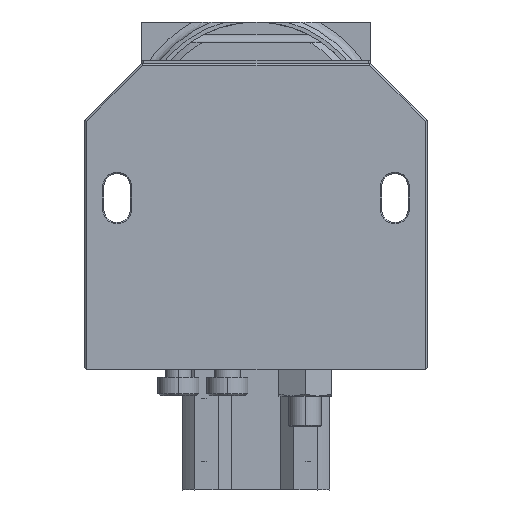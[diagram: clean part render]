
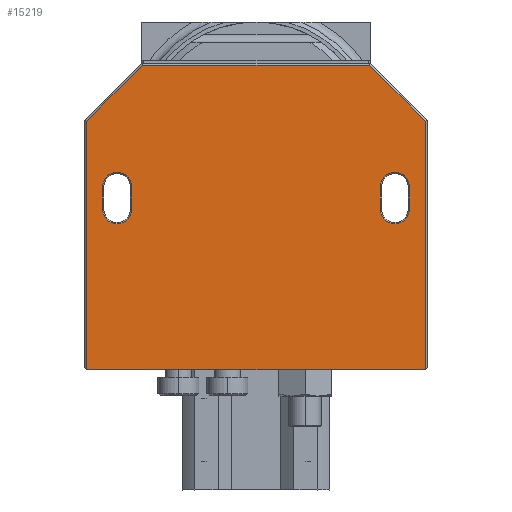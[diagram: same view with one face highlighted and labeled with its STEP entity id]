
A CAD part, front view. The second image highlights one B-rep face of the part: STEP entity #15219.
In plain terms, the highlighted planar face has unit normal (0, -1, 0).
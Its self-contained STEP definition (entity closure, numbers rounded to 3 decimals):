
#1147 = CARTESIAN_POINT ( 'NONE',  ( -39.493, -83.704, -4.6 ) ) ;
#1190 = VERTEX_POINT ( 'NONE', #35747 ) ;
#1240 = VECTOR ( 'NONE', #3644, 1000. ) ;
#1314 = CIRCLE ( 'NONE', #36213, 3.55 ) ;
#1458 = ORIENTED_EDGE ( 'NONE', *, *, #36938, .T. ) ;
#1716 = CARTESIAN_POINT ( 'NONE',  ( -50.543, -83.704, -18.85 ) ) ;
#1926 = DIRECTION ( 'NONE',  ( 0., 0., 1. ) ) ;
#2302 = AXIS2_PLACEMENT_3D ( 'NONE', #30118, #8859, #33714 ) ;
#2681 = EDGE_CURVE ( 'NONE', #39782, #31097, #39059, .T. ) ;
#2937 = FACE_BOUND ( 'NONE', #18194, .T. ) ;
#2955 = EDGE_CURVE ( 'NONE', #16580, #1190, #35087, .T. ) ;
#3059 = EDGE_LOOP ( 'NONE', ( #40567, #36503, #40933, #18632, #38827 ) ) ;
#3644 = DIRECTION ( 'NONE',  ( -1., 0., 0. ) ) ;
#3746 = VECTOR ( 'NONE', #26955, 1000. ) ;
#4173 = LINE ( 'NONE', #1716, #21892 ) ;
#4456 = CARTESIAN_POINT ( 'NONE',  ( -39.493, -83.704, -49.35 ) ) ;
#5697 = EDGE_CURVE ( 'NONE', #27440, #27244, #4173, .T. ) ;
#5833 = CARTESIAN_POINT ( 'NONE',  ( 32.457, -83.704, -49.35 ) ) ;
#6116 = CARTESIAN_POINT ( 'NONE',  ( -9.043, -83.704, 25.15 ) ) ;
#6353 = ORIENTED_EDGE ( 'NONE', *, *, #12177, .F. ) ;
#6553 = CARTESIAN_POINT ( 'NONE',  ( 24.957, -83.704, -10.1 ) ) ;
#6712 = VECTOR ( 'NONE', #26403, 1000. ) ;
#7588 = PLANE ( 'NONE',  #33938 ) ;
#7759 = DIRECTION ( 'NONE',  ( 0., -1., 0. ) ) ;
#8010 = VERTEX_POINT ( 'NONE', #9182 ) ;
#8095 = ORIENTED_EDGE ( 'NONE', *, *, #14831, .F. ) ;
#8227 = CARTESIAN_POINT ( 'NONE',  ( 32.457, -83.704, -18.85 ) ) ;
#8859 = DIRECTION ( 'NONE',  ( 0., -1., 0. ) ) ;
#8890 = EDGE_CURVE ( 'NONE', #33847, #46096, #21555, .T. ) ;
#9090 = LINE ( 'NONE', #21145, #26851 ) ;
#9182 = CARTESIAN_POINT ( 'NONE',  ( -43.043, -83.704, -13.65 ) ) ;
#9476 = EDGE_CURVE ( 'NONE', #23750, #24293, #22588, .T. ) ;
#10129 = DIRECTION ( 'NONE',  ( 0., 0., -1. ) ) ;
#10199 = LINE ( 'NONE', #8227, #27944 ) ;
#10237 = CIRCLE ( 'NONE', #24609, 3.55 ) ;
#10455 = CARTESIAN_POINT ( 'NONE',  ( -36.836, -83.704, 25.15 ) ) ;
#10509 = VERTEX_POINT ( 'NONE', #15994 ) ;
#10619 = DIRECTION ( 'NONE',  ( 0., 0., 1. ) ) ;
#10895 = CARTESIAN_POINT ( 'NONE',  ( -50.543, -83.704, -49.35 ) ) ;
#11097 = CARTESIAN_POINT ( 'NONE',  ( -36.836, -83.704, 25.15 ) ) ;
#11220 = CARTESIAN_POINT ( 'NONE',  ( -43.043, -83.704, -10.1 ) ) ;
#11332 = DIRECTION ( 'NONE',  ( 0., 1., 0. ) ) ;
#11815 = DIRECTION ( 'NONE',  ( 0., 0., -1. ) ) ;
#12177 = EDGE_CURVE ( 'NONE', #18242, #27440, #45725, .T. ) ;
#12282 = ORIENTED_EDGE ( 'NONE', *, *, #9476, .T. ) ;
#12409 = FACE_OUTER_BOUND ( 'NONE', #26498, .T. ) ;
#12896 = DIRECTION ( 'NONE',  ( 0., -1., 0. ) ) ;
#13854 = AXIS2_PLACEMENT_3D ( 'NONE', #29020, #7759, #32607 ) ;
#14139 = CARTESIAN_POINT ( 'NONE',  ( 21.407, -83.704, -10.1 ) ) ;
#14637 = DIRECTION ( 'NONE',  ( -0.707, 0., -0.707 ) ) ;
#14750 = DIRECTION ( 'NONE',  ( 0., 0., -1. ) ) ;
#14831 = EDGE_CURVE ( 'NONE', #23750, #10509, #10237, .T. ) ;
#14862 = ORIENTED_EDGE ( 'NONE', *, *, #20824, .T. ) ;
#15109 = DIRECTION ( 'NONE',  ( -0.707, 0., 0.707 ) ) ;
#15219 = ADVANCED_FACE ( 'NONE', ( #31274, #2937, #12409 ), #7588, .F. ) ;
#15498 = CARTESIAN_POINT ( 'NONE',  ( -43.043, -83.704, -4.6 ) ) ;
#15664 = CARTESIAN_POINT ( 'NONE',  ( -46.593, -83.704, -10.1 ) ) ;
#15775 = CARTESIAN_POINT ( 'NONE',  ( 21.407, -83.704, -4.6 ) ) ;
#15994 = CARTESIAN_POINT ( 'NONE',  ( 24.957, -83.704, -13.65 ) ) ;
#16562 = ORIENTED_EDGE ( 'NONE', *, *, #2681, .T. ) ;
#16580 = VERTEX_POINT ( 'NONE', #37293 ) ;
#16917 = VECTOR ( 'NONE', #14637, 1000. ) ;
#17221 = VECTOR ( 'NONE', #21064, 1000. ) ;
#17785 = CARTESIAN_POINT ( 'NONE',  ( -9.043, -83.704, -49.35 ) ) ;
#18194 = EDGE_LOOP ( 'NONE', ( #12282, #34994, #36098, #34541, #8095 ) ) ;
#18242 = VERTEX_POINT ( 'NONE', #5833 ) ;
#18632 = ORIENTED_EDGE ( 'NONE', *, *, #22241, .T. ) ;
#18995 = EDGE_CURVE ( 'NONE', #16580, #24293, #35559, .T. ) ;
#19083 = DIRECTION ( 'NONE',  ( 1., 0., 0. ) ) ;
#19592 = CARTESIAN_POINT ( 'NONE',  ( -46.593, -83.704, -4.6 ) ) ;
#20674 = VECTOR ( 'NONE', #15109, 1000. ) ;
#20824 = EDGE_CURVE ( 'NONE', #31097, #27244, #31399, .T. ) ;
#21064 = DIRECTION ( 'NONE',  ( -1., 0., 0. ) ) ;
#21145 = CARTESIAN_POINT ( 'NONE',  ( -46.593, -83.704, -49.35 ) ) ;
#21555 = LINE ( 'NONE', #4456, #29948 ) ;
#21892 = VECTOR ( 'NONE', #1926, 1000. ) ;
#22241 = EDGE_CURVE ( 'NONE', #38998, #22575, #9090, .T. ) ;
#22512 = AXIS2_PLACEMENT_3D ( 'NONE', #15498, #40470, #19083 ) ;
#22575 = VERTEX_POINT ( 'NONE', #19592 ) ;
#22588 = LINE ( 'NONE', #27853, #3746 ) ;
#23750 = VERTEX_POINT ( 'NONE', #14139 ) ;
#24293 = VERTEX_POINT ( 'NONE', #15775 ) ;
#24432 = CARTESIAN_POINT ( 'NONE',  ( 32.457, -83.704, 11.443 ) ) ;
#24609 = AXIS2_PLACEMENT_3D ( 'NONE', #6553, #31400, #10129 ) ;
#25495 = CARTESIAN_POINT ( 'NONE',  ( 32.457, -83.704, 11.443 ) ) ;
#25787 = CARTESIAN_POINT ( 'NONE',  ( 28.507, -83.704, -49.35 ) ) ;
#25917 = EDGE_CURVE ( 'NONE', #10509, #1190, #1314, .T. ) ;
#26403 = DIRECTION ( 'NONE',  ( 0., 0., -1. ) ) ;
#26498 = EDGE_LOOP ( 'NONE', ( #36370, #1458, #16562, #14862, #43893, #6353 ) ) ;
#26851 = VECTOR ( 'NONE', #10619, 1000. ) ;
#26955 = DIRECTION ( 'NONE',  ( 0., 0., 1. ) ) ;
#27244 = VERTEX_POINT ( 'NONE', #31807 ) ;
#27402 = CARTESIAN_POINT ( 'NONE',  ( -39.493, -83.704, -10.1 ) ) ;
#27440 = VERTEX_POINT ( 'NONE', #10895 ) ;
#27838 = CIRCLE ( 'NONE', #22512, 3.55 ) ;
#27853 = CARTESIAN_POINT ( 'NONE',  ( 21.407, -83.704, -49.35 ) ) ;
#27944 = VECTOR ( 'NONE', #11815, 1000. ) ;
#29020 = CARTESIAN_POINT ( 'NONE',  ( 24.957, -83.704, -4.6 ) ) ;
#29948 = VECTOR ( 'NONE', #42992, 1000. ) ;
#30118 = CARTESIAN_POINT ( 'NONE',  ( -43.043, -83.704, -10.1 ) ) ;
#30635 = CIRCLE ( 'NONE', #44895, 3.55 ) ;
#31097 = VERTEX_POINT ( 'NONE', #10455 ) ;
#31274 = FACE_BOUND ( 'NONE', #3059, .T. ) ;
#31399 = LINE ( 'NONE', #11097, #16917 ) ;
#31400 = DIRECTION ( 'NONE',  ( 0., -1., 0. ) ) ;
#31785 = EDGE_CURVE ( 'NONE', #33847, #22575, #27838, .T. ) ;
#31807 = CARTESIAN_POINT ( 'NONE',  ( -50.543, -83.704, 11.443 ) ) ;
#32594 = CARTESIAN_POINT ( 'NONE',  ( -50.543, -83.704, -49.35 ) ) ;
#32607 = DIRECTION ( 'NONE',  ( 1., 0., 0. ) ) ;
#33714 = DIRECTION ( 'NONE',  ( 0., 0., -1. ) ) ;
#33847 = VERTEX_POINT ( 'NONE', #1147 ) ;
#33938 = AXIS2_PLACEMENT_3D ( 'NONE', #32594, #11332, #36192 ) ;
#34184 = CARTESIAN_POINT ( 'NONE',  ( 24.957, -83.704, -10.1 ) ) ;
#34541 = ORIENTED_EDGE ( 'NONE', *, *, #25917, .F. ) ;
#34994 = ORIENTED_EDGE ( 'NONE', *, *, #18995, .F. ) ;
#35087 = LINE ( 'NONE', #25787, #6712 ) ;
#35559 = CIRCLE ( 'NONE', #13854, 3.55 ) ;
#35747 = CARTESIAN_POINT ( 'NONE',  ( 28.507, -83.704, -10.1 ) ) ;
#36081 = DIRECTION ( 'NONE',  ( 0., -1., 0. ) ) ;
#36098 = ORIENTED_EDGE ( 'NONE', *, *, #2955, .T. ) ;
#36192 = DIRECTION ( 'NONE',  ( 0., 0., 1. ) ) ;
#36213 = AXIS2_PLACEMENT_3D ( 'NONE', #34184, #12896, #37793 ) ;
#36216 = CARTESIAN_POINT ( 'NONE',  ( 18.75, -83.704, 25.15 ) ) ;
#36370 = ORIENTED_EDGE ( 'NONE', *, *, #41158, .F. ) ;
#36503 = ORIENTED_EDGE ( 'NONE', *, *, #43031, .F. ) ;
#36938 = EDGE_CURVE ( 'NONE', #42104, #39782, #39665, .T. ) ;
#37293 = CARTESIAN_POINT ( 'NONE',  ( 28.507, -83.704, -4.6 ) ) ;
#37491 = EDGE_CURVE ( 'NONE', #38998, #8010, #30635, .T. ) ;
#37793 = DIRECTION ( 'NONE',  ( 0., 0., -1. ) ) ;
#38827 = ORIENTED_EDGE ( 'NONE', *, *, #31785, .F. ) ;
#38998 = VERTEX_POINT ( 'NONE', #15664 ) ;
#39059 = LINE ( 'NONE', #6116, #1240 ) ;
#39665 = LINE ( 'NONE', #25495, #20674 ) ;
#39782 = VERTEX_POINT ( 'NONE', #36216 ) ;
#40066 = CIRCLE ( 'NONE', #2302, 3.55 ) ;
#40470 = DIRECTION ( 'NONE',  ( 0., -1., 0. ) ) ;
#40567 = ORIENTED_EDGE ( 'NONE', *, *, #8890, .T. ) ;
#40933 = ORIENTED_EDGE ( 'NONE', *, *, #37491, .F. ) ;
#41158 = EDGE_CURVE ( 'NONE', #42104, #18242, #10199, .T. ) ;
#42104 = VERTEX_POINT ( 'NONE', #24432 ) ;
#42992 = DIRECTION ( 'NONE',  ( 0., 0., -1. ) ) ;
#43031 = EDGE_CURVE ( 'NONE', #8010, #46096, #40066, .T. ) ;
#43893 = ORIENTED_EDGE ( 'NONE', *, *, #5697, .F. ) ;
#44895 = AXIS2_PLACEMENT_3D ( 'NONE', #11220, #36081, #14750 ) ;
#45725 = LINE ( 'NONE', #17785, #17221 ) ;
#46096 = VERTEX_POINT ( 'NONE', #27402 ) ;
